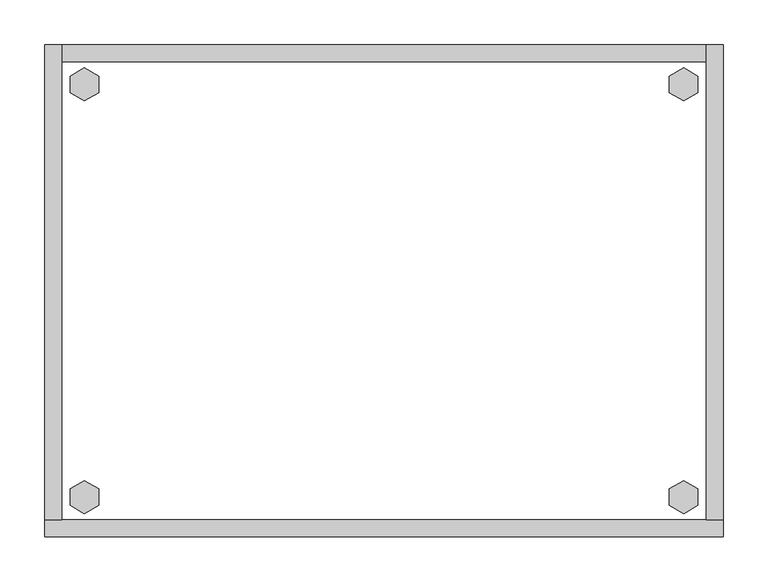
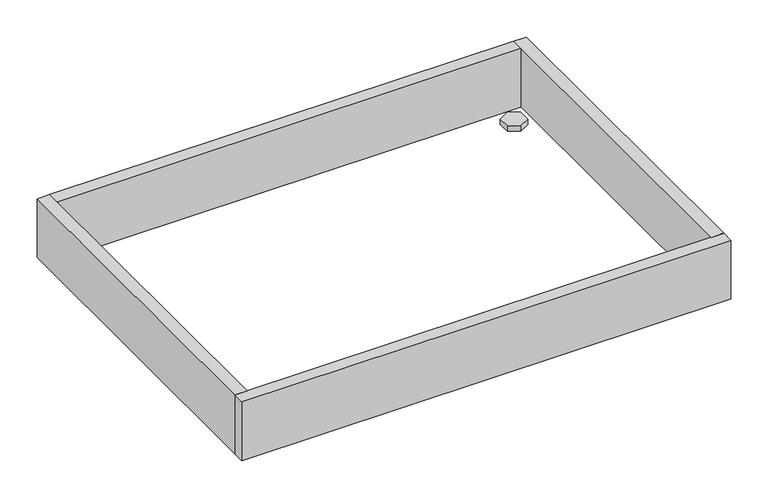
"""IFC4 building model written with IfcOpenShell, lengths in millimetres: furniture geometry, HermanMiller_Mora_CH250_PlinthBaseFinished : Flush on Both/Inline HPL 24D 30W."""

from ifc_helpers import new_model, si_unit, frame, origin, origin_with_axes, place, context, project, spatial, polyline, outline, extrude, source, transform, mapped, element, save


def furniture_3020c5eb(model_context):
    return source(origin(), model_context, "Body", "SweptSolid", [
        extrude(outline(polyline([(701.3735422, -498.8179), (717.3214, -489.6104), (733.2692578, -498.8179), (733.2692578, -517.2329), (717.3214, -526.4404), (701.3735422, -517.2329), (701.3735422, -498.8179)])), origin_with_axes(), (0.0, 0.0, 1.0), 9.144),
        extrude(outline(polyline([(701.3735422, -35.4711), (717.3214, -26.2636), (733.2692578, -35.4711), (733.2692578, -53.8861), (717.3214, -63.0936), (701.3735422, -53.8861), (701.3735422, -35.4711)])), origin_with_axes(), (0.0, 0.0, 1.0), 9.144),
        extrude(outline(polyline([(28.7307422, -498.8179), (44.6786, -489.6104), (60.6264578, -498.8179), (60.6264578, -517.2329), (44.6786, -526.4404), (28.7307422, -517.2329), (28.7307422, -498.8179)])), origin_with_axes(), (0.0, 0.0, 1.0), 9.144),
        extrude(outline(polyline([(28.7307422, -35.4711), (44.6786, -26.2636), (60.6264578, -35.4711), (60.6264578, -53.8861), (44.6786, -63.0936), (28.7307422, -53.8861), (28.7307422, -35.4711)])), origin_with_axes(), (0.0, 0.0, 1.0), 9.144),
        extrude(outline(polyline([(19.304, 0.0), (19.304, -533.4), (0.0, -533.4), (0.0, 0.0), (19.304, 0.0)])), frame((0.0, 0.0, 4.699), z_axis=(0.0, 0.0, 1.0), x_axis=(1.0, 0.0, 0.0)), (0.0, 0.0, 1.0), 96.901),
        extrude(outline(polyline([(762.0, 0.0), (762.0, -533.4), (742.696, -533.4), (742.696, 0.0), (762.0, 0.0)])), frame((0.0, 0.0, 4.699), z_axis=(0.0, 0.0, 1.0), x_axis=(1.0, 0.0, 0.0)), (0.0, 0.0, 1.0), 96.901),
        extrude(outline(polyline([(742.696, -19.304), (19.304, -19.304), (19.304, 0.0), (742.696, 0.0), (742.696, -19.304)])), frame((0.0, 0.0, 4.699), z_axis=(0.0, 0.0, 1.0), x_axis=(1.0, 0.0, 0.0)), (0.0, 0.0, 1.0), 96.901),
        extrude(outline(polyline([(762.0, -533.4), (762.0, -552.704), (0.0, -552.704), (0.0, -533.4), (762.0, -533.4)])), frame((0.0, 0.0, 4.699), z_axis=(0.0, 0.0, 1.0), x_axis=(1.0, 0.0, 0.0)), (0.0, 0.0, 1.0), 96.901),
    ])


if __name__ == "__main__":
    model = new_model("IFC4")
    model_context = context("Model", 3, world=origin())
    ifc_project = project(units=[si_unit("LENGTHUNIT", "METRE", prefix="MILLI")], contexts=[model_context])
    site = spatial("IfcSite", under=ifc_project)
    building = spatial("IfcBuilding", under=site)
    placement = place(None, origin())
    furniture_shape = furniture_3020c5eb(model_context)
    element("IfcFurniture", 1, ObjectType="HermanMiller_Mora_CH250_PlinthBaseFinished : Flush on Both/Inline HPL 24D 30W", at=placement, inside=building, context=model_context, shape_type="MappedRepresentation", body=[
        mapped(furniture_shape, transform((0.0, 0.0, 0.0), x_axis=(1.0, 0.0, 0.0), y_axis=(0.0, 1.0, 0.0), z_axis=(0.0, 0.0, 1.0))),
    ])
    save(model, "model.ifc")
